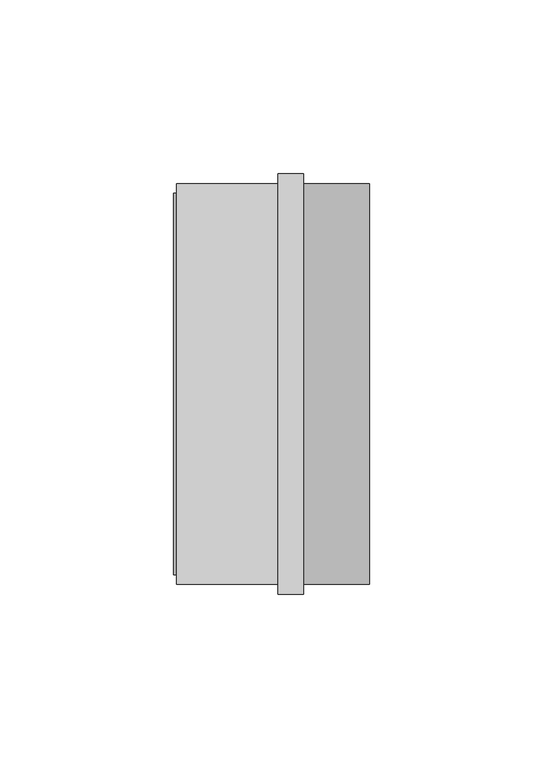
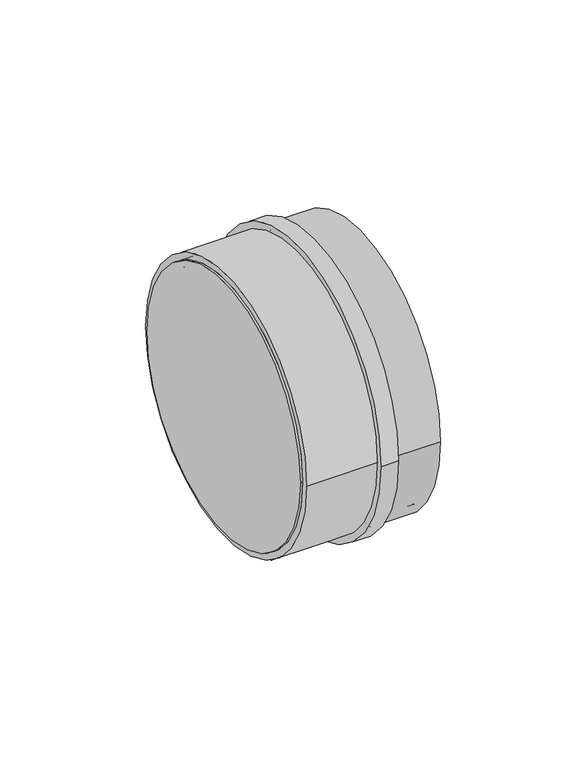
"""IFC4 building model written with IfcOpenShell, lengths in millimetres: pipe fitting geometry, Superdrain SKM-Plug : Superdrain SKM-Plug."""

from ifc_helpers import new_model, si_unit, point, frame, origin, origin_2d, place, context, project, spatial, polyline, circle_curve, trimmed, segment, composite_curve, outline, extrude, source, transform, mapped, element, save
from ifc_brep_helpers import plane_surface, cylinder_surface, revolved_surface, advanced_brep


def pipe_fitting_0ddfdf04(model_context):
    return source(origin(), model_context, "Body", "SolidModel", [
        extrude(outline(composite_curve([segment(trimmed(circle_curve(origin_2d(), 57.75), [point((57.75, 0.0))], [point((-57.75, 0.0))], False, "CARTESIAN"), True, "CONTINUOUS"), segment(trimmed(circle_curve(origin_2d(), 57.75), [point((-57.75, 0.0))], [point((57.75, 0.0))], False, "CARTESIAN"), True, "CONTINUOUS")], self_intersect=False), holes=[composite_curve([segment(trimmed(circle_curve(origin_2d(), 55.0), [point((55.0, 0.0))], [point((-55.0, 0.0))], True, "CARTESIAN"), True, "CONTINUOUS"), segment(trimmed(circle_curve(origin_2d(), 55.0), [point((-55.0, 0.0))], [point((55.0, 0.0))], True, "CARTESIAN"), True, "CONTINUOUS")], self_intersect=False)]), frame((0.0, 0.0, 0.0), z_axis=(1.0, 0.0, 0.0), x_axis=(0.0, 1.0, 0.0)), (0.0, 0.0, 1.0), 36.5),
        extrude(outline(composite_curve([segment(trimmed(circle_curve(origin_2d(), 60.6375), [point((60.6375, 0.0))], [point((-60.6375, 0.0))], False, "CARTESIAN"), True, "CONTINUOUS"), segment(trimmed(circle_curve(origin_2d(), 60.6375), [point((-60.6375, 0.0))], [point((60.6375, 0.0))], False, "CARTESIAN"), True, "CONTINUOUS")], self_intersect=False), holes=[composite_curve([segment(trimmed(circle_curve(origin_2d(), 55.0), [point((55.0, 0.0))], [point((-55.0, 0.0))], True, "CARTESIAN"), True, "CONTINUOUS"), segment(trimmed(circle_curve(origin_2d(), 55.0), [point((-55.0, 0.0))], [point((55.0, 0.0))], True, "CARTESIAN"), True, "CONTINUOUS")], self_intersect=False)]), frame((29.2, 0.0, 0.0), z_axis=(1.0, 0.0, 0.0), x_axis=(0.0, 1.0, 0.0)), (0.0, 0.0, 1.0), 7.3),
        extrude(outline(composite_curve([segment(trimmed(circle_curve(origin_2d(), 55.0), [point((55.0, 0.0))], [point((-55.0, 0.0))], False, "CARTESIAN"), True, "CONTINUOUS"), segment(trimmed(circle_curve(origin_2d(), 55.0), [point((-55.0, 0.0))], [point((55.0, 0.0))], False, "CARTESIAN"), True, "CONTINUOUS")], self_intersect=False)), frame((-1.0, 0.0, 0.0), z_axis=(1.0, 0.0, 0.0), x_axis=(0.0, 1.0, 0.0)), (0.0, 0.0, 1.0), 1.0),
        advanced_brep(
        [(0.0, -55.0, 0.0), (0.0, 55.0, 0.0), (0.0, 52.25, 0.0), (0.0, -52.25, 0.0), (55.5, -55.0, 0.0), (55.5, 55.0, 0.0), (36.5, -52.25, 0.0), (36.5, 52.25, 0.0)],
        [
            (0, 1, circle_curve(frame((0.0, 0.0, 0.0), z_axis=(-1.0, 0.0, 0.0), x_axis=(0.0, 1.0, 0.0)), 55.0)),
            (1, 0, circle_curve(frame((0.0, 0.0, 0.0), z_axis=(-1.0, 0.0, 0.0), x_axis=(0.0, 1.0, 0.0)), 55.0)),
            (2, 3, circle_curve(frame((0.0, 0.0, 0.0), z_axis=(1.0, 0.0, 0.0), x_axis=(0.0, 1.0, 0.0)), 52.25)),
            (3, 2, circle_curve(frame((0.0, 0.0, 0.0), z_axis=(1.0, 0.0, 0.0), x_axis=(0.0, 1.0, 0.0)), 52.25)),
            (4, 5, circle_curve(frame((55.5, 0.0, 0.0), z_axis=(1.0, 0.0, 0.0), x_axis=(0.0, 1.0, 0.0)), 55.0)),
            (5, 4, circle_curve(frame((55.5, 0.0, 0.0), z_axis=(1.0, 0.0, 0.0), x_axis=(0.0, 1.0, 0.0)), 55.0)),
            (0, 4),
            (5, 1),
            (6, 7, circle_curve(frame((36.5, 0.0, 0.0), z_axis=(-1.0, 0.0, 0.0), x_axis=(0.0, 1.0, 0.0)), 52.25)),
            (7, 6, circle_curve(frame((36.5, 0.0, 0.0), z_axis=(-1.0, 0.0, 0.0), x_axis=(0.0, 1.0, 0.0)), 52.25)),
            (6, 3),
            (2, 7),
        ],
        [
            plane_surface(frame((0.0, 0.0, 0.0), z_axis=(-1.0, 0.0, 0.0), x_axis=(0.0, 0.0, 1.0))),
            plane_surface(frame((55.5, 0.0, 0.0), z_axis=(1.0, 0.0, 0.0), x_axis=(0.0, 0.0, 1.0))),
            cylinder_surface(frame((0.0, 0.0, 0.0), z_axis=(-1.0, 0.0, 0.0), x_axis=(0.0, 1.0, 0.0)), 55.0),
            plane_surface(frame((36.5, 0.0, 0.0), z_axis=(-1.0, 0.0, 0.0), x_axis=(0.0, 0.0, 1.0))),
            revolved_surface(polyline([(0.0, 52.25, 0.0), (36.5, 52.25, 0.0)]), (-19.0, 0.0, 0.0), (-1.0, 0.0, 0.0)),
        ],
        [
            (0, [[1, 2], [3, 4]]),
            (1, [[5, 6]]),
            (2, [[-1, 7, -6, 8]]),
            (2, [[-2, -8, -5, -7]]),
            (3, [[9, 10]]),
            (4, [[-9, 11, -3, 12]]),
            (4, [[-10, -12, -4, -11]]),
        ],
    ),
        extrude(outline(composite_curve([segment(trimmed(circle_curve(origin_2d(), 57.75), [point((-57.75, 0.0))], [point((57.75, 0.0))], False, "CARTESIAN"), True, "CONTINUOUS"), segment(trimmed(circle_curve(origin_2d(), 57.75), [point((57.75, 0.0))], [point((-57.75, 0.0))], False, "CARTESIAN"), True, "CONTINUOUS")], self_intersect=False)), frame((36.5, 0.0, 0.0), z_axis=(1.0, 0.0, 0.0), x_axis=(0.0, 1.0, 0.0)), (0.0, 0.0, 1.0), 19.0),
    ])


if __name__ == "__main__":
    model = new_model("IFC4")
    model_context = context("Model", 3, world=origin())
    ifc_project = project(units=[si_unit("LENGTHUNIT", "METRE", prefix="MILLI")], contexts=[model_context])
    site = spatial("IfcSite", under=ifc_project)
    building = spatial("IfcBuilding", under=site)
    placement = place(None, origin())
    pipe_fitting_shape = pipe_fitting_0ddfdf04(model_context)
    element("IfcPipeFitting", 1, ObjectType="Superdrain SKM-Plug : Superdrain SKM-Plug", at=placement, inside=building, context=model_context, shape_type="MappedRepresentation", body=[
        mapped(pipe_fitting_shape, transform((0.0, 0.0, 0.0), x_axis=(1.0, 0.0, 0.0), y_axis=(0.0, 1.0, 0.0), z_axis=(0.0, 0.0, 1.0))),
    ])
    save(model, "model.ifc")
